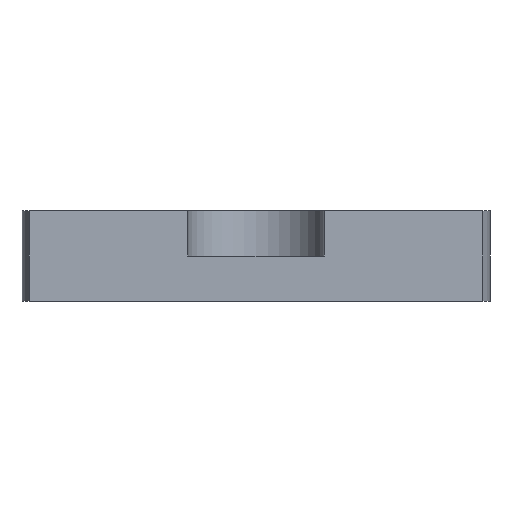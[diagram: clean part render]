
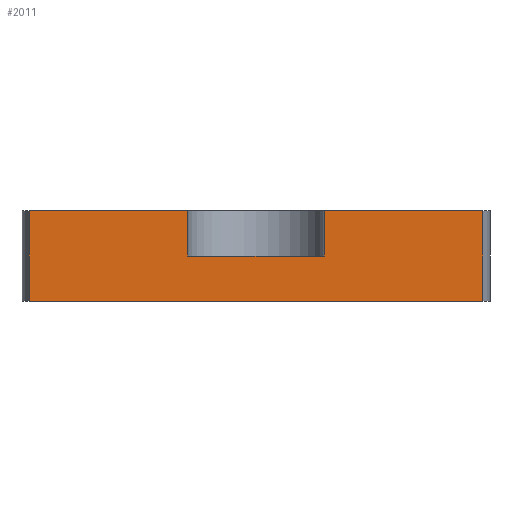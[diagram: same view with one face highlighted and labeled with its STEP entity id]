
A CAD part, left-side view. The second image highlights one B-rep face of the part: STEP entity #2011.
In plain terms, the highlighted planar face has unit normal (-1, 0, 0).
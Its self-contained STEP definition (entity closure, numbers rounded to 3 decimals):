
#4 = CARTESIAN_POINT ( 'NONE',  ( 25938.04, 14343.747, 0. ) ) ;
#75 = DIRECTION ( 'NONE',  ( 0., 0., 1. ) ) ;
#98 = VECTOR ( 'NONE', #392, 1000. ) ;
#150 = ORIENTED_EDGE ( 'NONE', *, *, #2147, .T. ) ;
#157 = LINE ( 'NONE', #1488, #1014 ) ;
#197 = CARTESIAN_POINT ( 'NONE',  ( 25938.04, 14313.747, 0. ) ) ;
#209 = DIRECTION ( 'NONE',  ( 0., 0., -1. ) ) ;
#227 = CARTESIAN_POINT ( 'NONE',  ( 25938.04, 14343.747, 0. ) ) ;
#232 = CARTESIAN_POINT ( 'NONE',  ( 25938.04, 14324.247, 0. ) ) ;
#240 = FACE_OUTER_BOUND ( 'NONE', #1883, .T. ) ;
#249 = ORIENTED_EDGE ( 'NONE', *, *, #634, .T. ) ;
#311 = CARTESIAN_POINT ( 'NONE',  ( 25938.04, 14343.747, 0. ) ) ;
#348 = VERTEX_POINT ( 'NONE', #1914 ) ;
#366 = ORIENTED_EDGE ( 'NONE', *, *, #2032, .T. ) ;
#375 = VERTEX_POINT ( 'NONE', #311 ) ;
#392 = DIRECTION ( 'NONE',  ( 0., 0., -1. ) ) ;
#400 = CARTESIAN_POINT ( 'NONE',  ( 25938.04, 14343.747, 0. ) ) ;
#524 = VECTOR ( 'NONE', #1240, 1000. ) ;
#525 = VERTEX_POINT ( 'NONE', #197 ) ;
#539 = CARTESIAN_POINT ( 'NONE',  ( 25938.04, 14333.247, 0. ) ) ;
#540 = DIRECTION ( 'NONE',  ( 0., 1., 0. ) ) ;
#612 = CARTESIAN_POINT ( 'NONE',  ( 25938.04, 14324.247, 0. ) ) ;
#616 = VECTOR ( 'NONE', #209, 1000. ) ;
#622 = ORIENTED_EDGE ( 'NONE', *, *, #1651, .F. ) ;
#634 = EDGE_CURVE ( 'NONE', #348, #2056, #157, .T. ) ;
#637 = VECTOR ( 'NONE', #1060, 1000. ) ;
#696 = VERTEX_POINT ( 'NONE', #1775 ) ;
#778 = VERTEX_POINT ( 'NONE', #612 ) ;
#920 = EDGE_CURVE ( 'NONE', #1567, #375, #1321, .T. ) ;
#943 = PLANE ( 'NONE',  #1171 ) ;
#952 = LINE ( 'NONE', #232, #98 ) ;
#1014 = VECTOR ( 'NONE', #1039, 1000. ) ;
#1023 = CARTESIAN_POINT ( 'NONE',  ( 25938.04, 14343.747, -3. ) ) ;
#1039 = DIRECTION ( 'NONE',  ( 0., -1., 0. ) ) ;
#1041 = LINE ( 'NONE', #1023, #637 ) ;
#1060 = DIRECTION ( 'NONE',  ( 0., 1., 0. ) ) ;
#1107 = VERTEX_POINT ( 'NONE', #1998 ) ;
#1147 = ORIENTED_EDGE ( 'NONE', *, *, #1199, .T. ) ;
#1171 = AXIS2_PLACEMENT_3D ( 'NONE', #4, #1760, #75 ) ;
#1199 = EDGE_CURVE ( 'NONE', #778, #696, #952, .T. ) ;
#1240 = DIRECTION ( 'NONE',  ( 0., 0., -1. ) ) ;
#1247 = CARTESIAN_POINT ( 'NONE',  ( 25938.04, 14313.747, 0. ) ) ;
#1321 = LINE ( 'NONE', #2003, #2160 ) ;
#1336 = CARTESIAN_POINT ( 'NONE',  ( 25938.04, 14333.247, 0. ) ) ;
#1371 = ORIENTED_EDGE ( 'NONE', *, *, #1801, .T. ) ;
#1488 = CARTESIAN_POINT ( 'NONE',  ( 25938.04, 14328.747, -6. ) ) ;
#1503 = LINE ( 'NONE', #227, #616 ) ;
#1511 = CARTESIAN_POINT ( 'NONE',  ( 25938.04, 14313.747, -6. ) ) ;
#1567 = VERTEX_POINT ( 'NONE', #539 ) ;
#1592 = LINE ( 'NONE', #1247, #524 ) ;
#1651 = EDGE_CURVE ( 'NONE', #525, #2056, #1592, .T. ) ;
#1681 = VECTOR ( 'NONE', #540, 1000. ) ;
#1760 = DIRECTION ( 'NONE',  ( -1., 0., 0. ) ) ;
#1775 = CARTESIAN_POINT ( 'NONE',  ( 25938.04, 14324.247, -3. ) ) ;
#1801 = EDGE_CURVE ( 'NONE', #375, #348, #1503, .T. ) ;
#1816 = ORIENTED_EDGE ( 'NONE', *, *, #920, .T. ) ;
#1830 = DIRECTION ( 'NONE',  ( 0., 0., 1. ) ) ;
#1883 = EDGE_LOOP ( 'NONE', ( #1147, #366, #150, #1816, #1371, #249, #622, #2094 ) ) ;
#1890 = VECTOR ( 'NONE', #1830, 1000. ) ;
#1914 = CARTESIAN_POINT ( 'NONE',  ( 25938.04, 14343.747, -6. ) ) ;
#1924 = EDGE_CURVE ( 'NONE', #525, #778, #2140, .T. ) ;
#1953 = LINE ( 'NONE', #1336, #1890 ) ;
#1998 = CARTESIAN_POINT ( 'NONE',  ( 25938.04, 14333.247, -3. ) ) ;
#2003 = CARTESIAN_POINT ( 'NONE',  ( 25938.04, 14343.747, 0. ) ) ;
#2011 = ADVANCED_FACE ( 'NONE', ( #240 ), #943, .T. ) ;
#2032 = EDGE_CURVE ( 'NONE', #696, #1107, #1041, .T. ) ;
#2042 = DIRECTION ( 'NONE',  ( 0., 1., 0. ) ) ;
#2056 = VERTEX_POINT ( 'NONE', #1511 ) ;
#2094 = ORIENTED_EDGE ( 'NONE', *, *, #1924, .T. ) ;
#2140 = LINE ( 'NONE', #400, #1681 ) ;
#2147 = EDGE_CURVE ( 'NONE', #1107, #1567, #1953, .T. ) ;
#2160 = VECTOR ( 'NONE', #2042, 1000. ) ;
